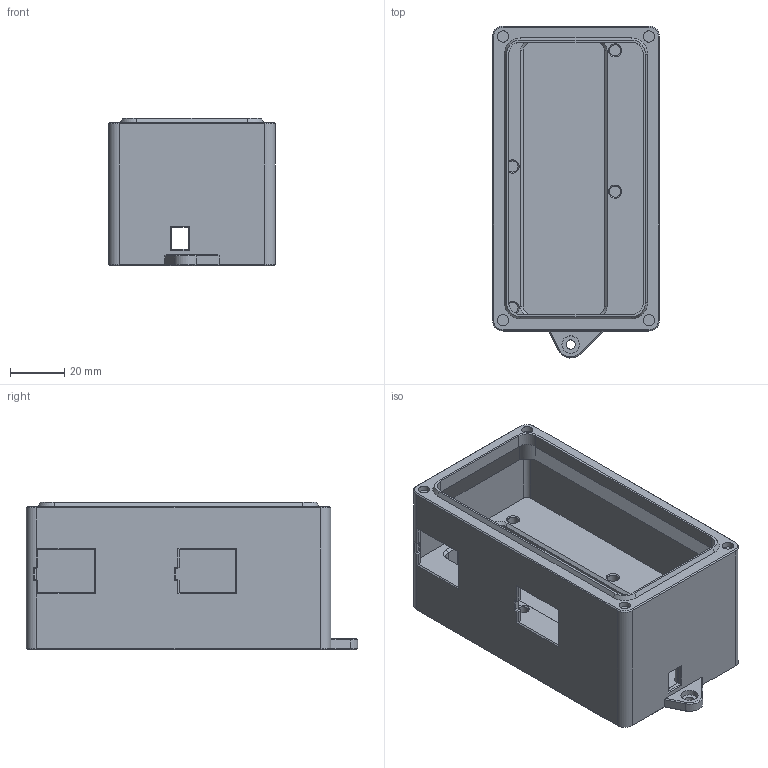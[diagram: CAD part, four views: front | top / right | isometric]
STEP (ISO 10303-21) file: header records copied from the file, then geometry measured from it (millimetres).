
FILE_DESCRIPTION(/* description */ (''),/* implementation_level */ '2;1');
FILE_NAME(/* name */ 'fan_case_5015_4mm.stp',/* time_stamp */ '2023-12-22T16:25:40+01:00',/* author */ ('Despo'),/* organization */ (''),/* preprocessor_version */ 'ST-DEVELOPER v19.2',/* originating_system */ 'Autodesk Inventor 2024',/* authorisation */ '');
FILE_SCHEMA (('AUTOMOTIVE_DESIGN { 1 0 10303 214 3 1 1 }'));
Length unit declared in the file: millimetre
Products named in the file (1): fan duct
Bounding box: 61.8 x 122.79 x 54.5 mm (x, y, z)
Volume: 127596.8 mm3; surface area: 48276.8 mm2
Topology: 1 solids, 1 shells, 221 faces, 533 edges, 323 vertices
Faces by surface type: plane 154, cylinder 37, cone 30
Full cylindrical faces by diameter (mm): 3.4 x1, 4.1 x4, 4.2 x4, 6.4 x1
Entity records: 6623 total; most frequent: CARTESIAN_POINT 1152, DIRECTION 1083, ORIENTED_EDGE 1066, EDGE_CURVE 533, LINE 399, VECTOR 399, AXIS2_PLACEMENT_3D 342, VERTEX_POINT 323
